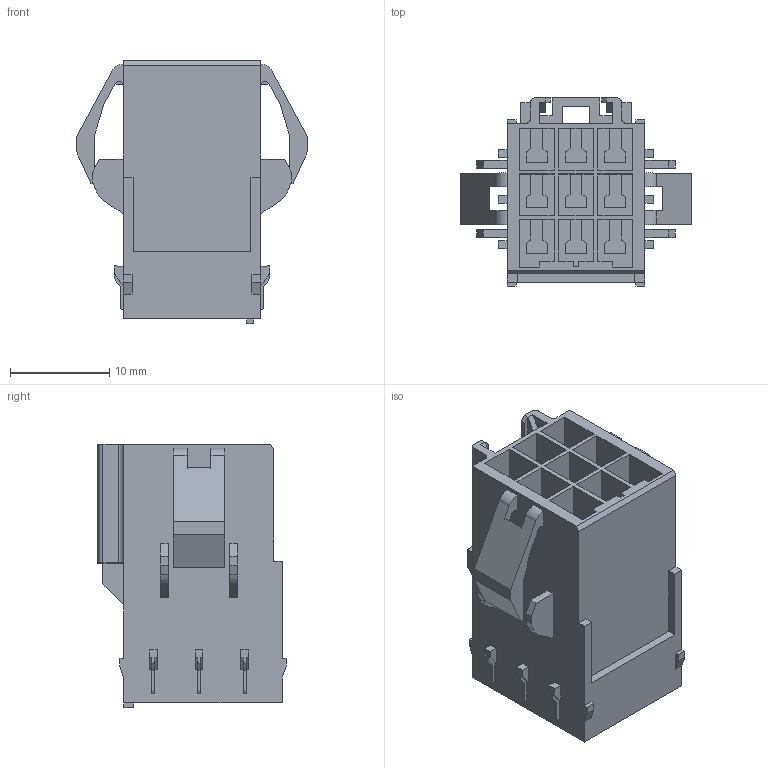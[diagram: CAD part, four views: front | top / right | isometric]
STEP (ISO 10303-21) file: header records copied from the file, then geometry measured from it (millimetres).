
FILE_DESCRIPTION((''),'2;1');
FILE_NAME('C-177911-6','2008-01-10T',('workeradm'),('Tyco Electronics Corporation'),'PRO/ENGINEER BY PARAMETRIC TECHNOLOGY CORPORATION, 2005450','PRO/ENGINEER BY PARAMETRIC TECHNOLOGY CORPORATION, 2005450','');
FILE_SCHEMA(('CONFIG_CONTROL_DESIGN', 'GEOMETRIC_VALIDATION_PROPERTIES_MIM'));
Length unit declared in the file: millimetre
Products named in the file (1): C-177911-6
Bounding box: 23.4 x 19.01 x 26.6 mm (x, y, z)
Volume: 4231.3 mm3; surface area: 4563 mm2
Topology: 1 solids, 1 shells, 452 faces, 1249 edges, 830 vertices
Faces by surface type: plane 419, cylinder 27, torus 4, extrusion 2
Entity records: 14340 total; most frequent: CARTESIAN_POINT 2592, ORIENTED_EDGE 2498, DIRECTION 2209, EDGE_CURVE 1249, VECTOR 1177, LINE 1175, VERTEX_POINT 830, AXIS2_PLACEMENT_3D 516
